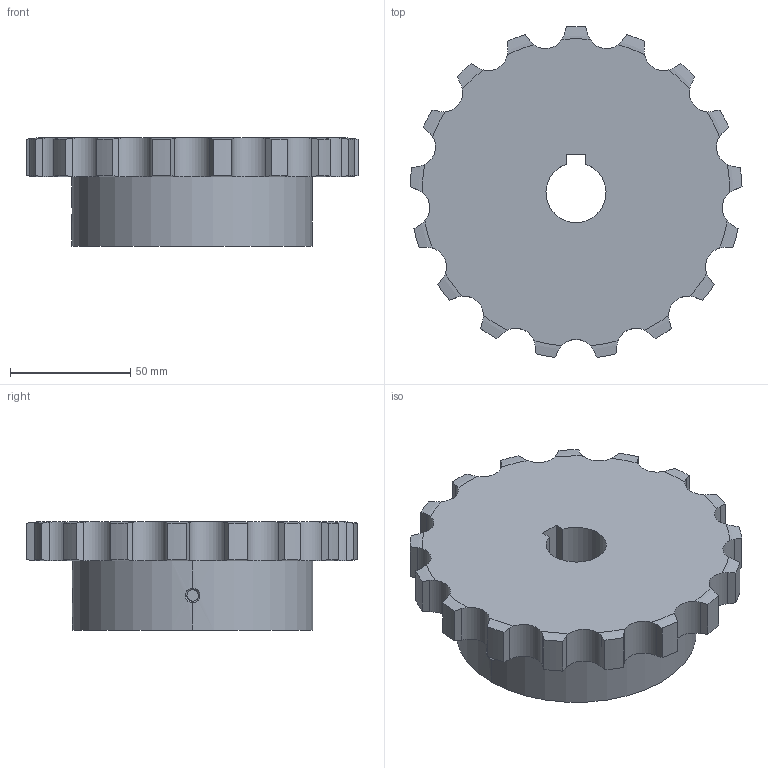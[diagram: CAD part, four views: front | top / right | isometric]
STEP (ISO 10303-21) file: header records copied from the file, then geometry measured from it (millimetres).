
FILE_DESCRIPTION((''),'2;1');
FILE_NAME('510-501-2517_PRT','2021-02-13T',('Brieden'),('Brieden'),'PRO/ENGINEER BY PARAMETRIC TECHNOLOGY CORPORATION, 2010160','PRO/ENGINEER BY PARAMETRIC TECHNOLOGY CORPORATION, 2010160','');
FILE_SCHEMA(('AUTOMOTIVE_DESIGN { 1 0 10303 214 1 1 1 1 }'));
Length unit declared in the file: millimetre
Products named in the file (1): 510-501-2517_PRT
Bounding box: 138.14 x 137.65 x 45 mm (x, y, z)
Volume: 417639.8 mm3; surface area: 47682.7 mm2
Topology: 1 solids, 1 shells, 123 faces, 351 edges, 232 vertices
Faces by surface type: cylinder 75, torus 34, plane 8, bspline 6
Entity records: 6032 total; most frequent: CARTESIAN_POINT 1899, ORIENTED_EDGE 702, DIRECTION 549, PRESENTATION_STYLE_ASSIGNMENT 352, STYLED_ITEM 352, CURVE_STYLE 351, EDGE_CURVE 351, VERTEX_POINT 232
